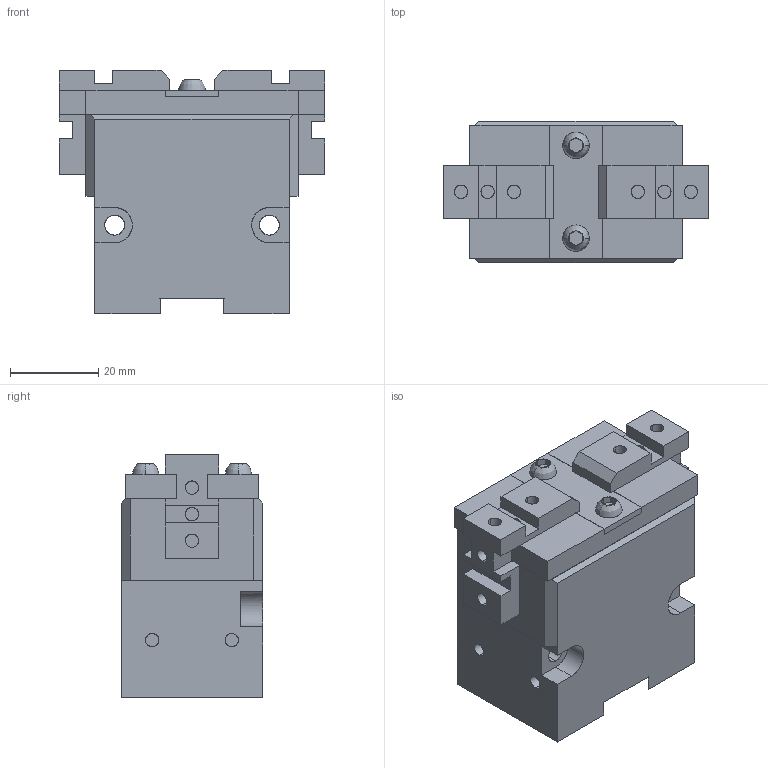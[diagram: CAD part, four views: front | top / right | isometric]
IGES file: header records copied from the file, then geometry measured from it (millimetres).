
Global section: file name: C:\Documents and Settings\Administrateur\Mes documents\OPE-50-X-OPEN.igs; native system: AutoCAD-16.0s (LMS Tech) (Microsoft Windows NT Version 5.1 (x86)); preprocessor: Autodesk IGES Translator Mechanical Desktop.R7.0.43.0 (Mar 18 2003) from Autodesk, Inc.; date: 20050627.155858; units: millimetre
Bounding box: 60 x 32 x 55 mm (x, y, z)
Surface area: 23964.7 mm2 (no closed solid volume)
Topology: 0 solids, 0 shells, 241 faces, 2257 edges, 2338 vertices
Faces by surface type: bspline 241
